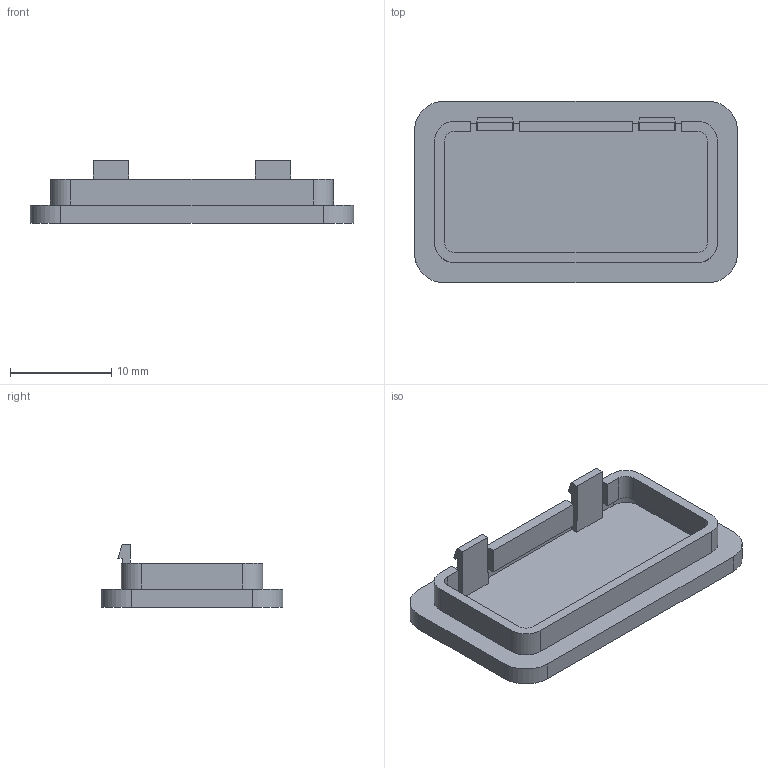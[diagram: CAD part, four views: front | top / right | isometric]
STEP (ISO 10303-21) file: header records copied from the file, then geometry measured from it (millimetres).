
FILE_DESCRIPTION(('Open CASCADE Model'),'2;1');
FILE_NAME('Open CASCADE Shape Model','2026-11-08T17:26:56',('Author'),( 'Open CASCADE'),'Open CASCADE STEP processor 7.8','Open CASCADE 7.8' ,'Unknown');
FILE_SCHEMA(('AUTOMOTIVE_DESIGN { 1 0 10303 214 1 1 1 1 }'));
Length unit declared in the file: millimetre
Products named in the file (1): Open CASCADE STEP translator 7.8 6
Bounding box: 32 x 18 x 6.2 mm (x, y, z)
Volume: 784.4 mm3; surface area: 1950 mm2
Topology: 1 solids, 1 shells, 71 faces, 204 edges, 136 vertices
Faces by surface type: plane 55, cylinder 16
Entity records: 4851 total; most frequent: CARTESIAN_POINT 968, DIRECTION 655, LINE 418, VECTOR 418, ORIENTED_EDGE 408, PCURVE 408, DEFINITIONAL_REPRESENTATION 408, EDGE_CURVE 204
